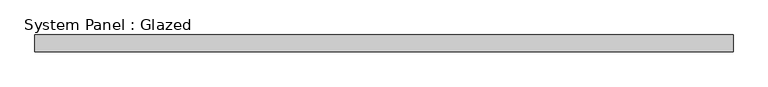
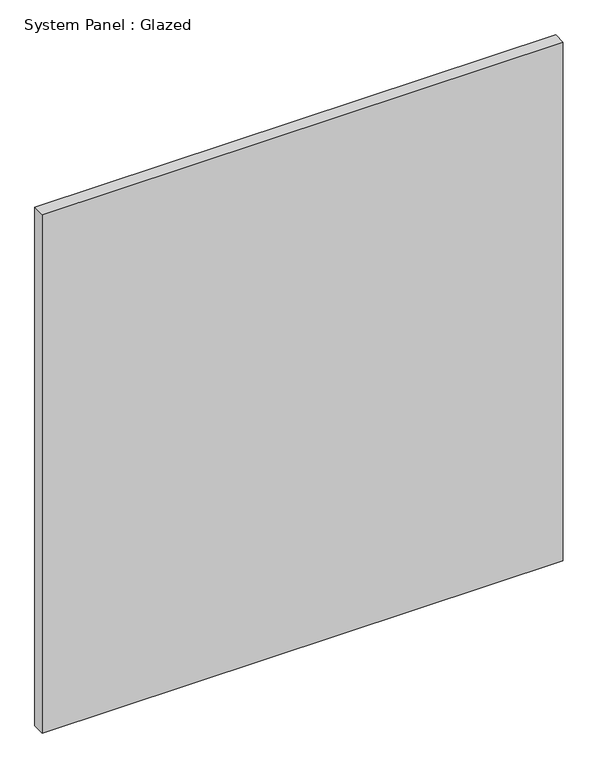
"""IFC4 building model written with IfcOpenShell, lengths in millimetres: plate geometry, System Panel : Glazed."""

from ifc_helpers import new_model, si_unit, origin, origin_with_axes, place, context, project, spatial, polyline, outline, extrude, source, transform, mapped, element, save


def system_panel_glazed_c90b0923(model_context):
    return source(origin(), model_context, "Body", "SweptSolid", [
        extrude(outline(polyline([(534.3071428, 19.05), (-534.3071428, 19.05), (-534.3071428, 44.45), (534.3071428, 44.45), (534.3071428, 19.05)])), origin_with_axes(), (0.0, 0.0, 1.0), 1123.95),
    ])


if __name__ == "__main__":
    model = new_model("IFC4")
    model_context = context("Model", 3, world=origin())
    ifc_project = project(units=[si_unit("LENGTHUNIT", "METRE", prefix="MILLI")], contexts=[model_context])
    site = spatial("IfcSite", under=ifc_project)
    building = spatial("IfcBuilding", under=site)
    placement = place(None, origin())
    system_panel_glazed_shape = system_panel_glazed_c90b0923(model_context)
    element("IfcPlate", 1, ObjectType="System Panel : Glazed", at=placement, inside=building, context=model_context, shape_type="MappedRepresentation", body=[
        mapped(system_panel_glazed_shape, transform((0.0, 0.0, 0.0), x_axis=(1.0, 0.0, 0.0), y_axis=(0.0, 1.0, 0.0), z_axis=(0.0, 0.0, 1.0))),
    ])
    save(model, "model.ifc")
